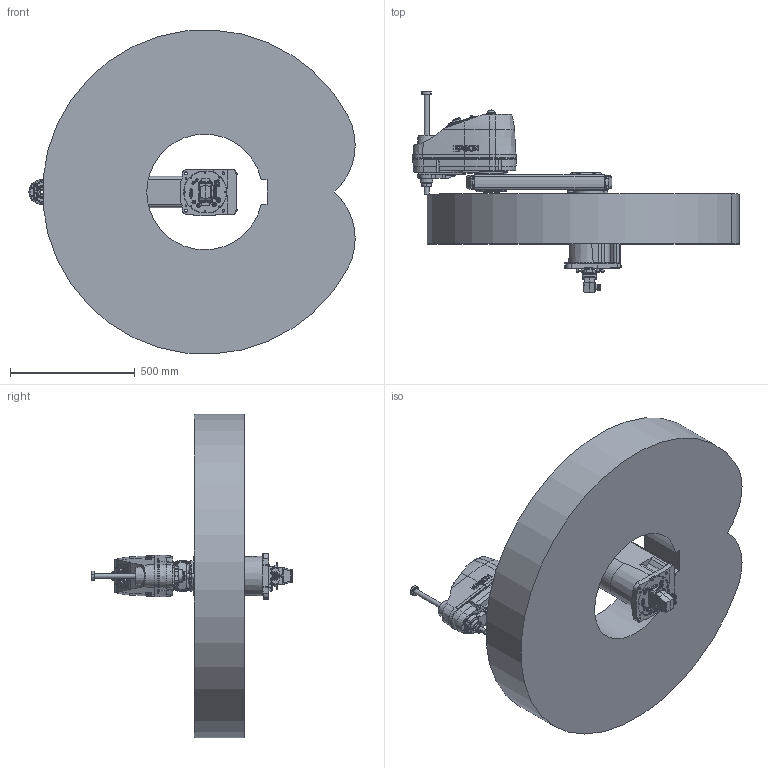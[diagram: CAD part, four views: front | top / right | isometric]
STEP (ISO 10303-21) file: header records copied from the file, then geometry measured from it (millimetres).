
FILE_DESCRIPTION( ( 'STEP AP214' ), '1' );
FILE_NAME( 'C:/Users/9607552/Desktop/GX8-B652SB_langle.stp', '2023-07-07T02:55:11', ( '' ), ( '' ), ' ', 'PARTsolutions', ' ' );
FILE_SCHEMA( ( 'AUTOMOTIVE_DESIGN { 1 0 10303 214 1 1 1 1 }' ) );
Length unit declared in the file: millimetre
Products named in the file (9): GX8-B652SB-AW; _B452SBbasegx8; _B652Sj1arm; _GX8-B652SBj1arm2; _GX8-B652SBj1arm1; _B452S_J2; _B452SZA; _Angle-B; _GX8-25-B_WS
Assembly tree (10 placements, depth 2):
  GX8-B652SB-AW
    _B452SBbasegx8
    _B652Sj1arm
    _GX8-B652SBj1arm2  x2
    _GX8-B652SBj1arm1  x2
    _B452S_J2
    _B452SZA
    _Angle-B
    _GX8-25-B_WS
Bounding box: 1308.1 x 803.1 x 1298.02 mm (x, y, z)
Volume: 249465479.1 mm3; surface area: 4515423.2 mm2
Topology: 10 solids, 11 shells, 2923 faces, 7185 edges, 4700 vertices
Faces by surface type: plane 1472, cylinder 936, cone 354, torus 118, bspline 37, sphere 6
Full cylindrical faces by diameter (mm): 1 x48, 1.18 x55, 2.459 x12, 3 x32, 3.242 x20, 3.3 x5, 3.9 x4, 4 x4, 4.2 x6, 4.5 x4, 4.8 x5, 4.917 x2, 5.34 x4, 5.5 x17, 6 x1, 6.2 x2, 6.647 x4, 6.8 x2, 7 x48, 8 x5, 8.5 x6, 9 x24, 10 x18, 11 x4, 11.2 x7, 11.5 x1, 12 x5, 12.25 x1, 13 x3, 13.2 x12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
Entity records: 104780 total; most frequent: CARTESIAN_POINT 20200, DIRECTION 12839, ORIENTED_EDGE 11952, EDGE_CURVE 5976, AXIS2_PLACEMENT_3D 4945, VERTEX_POINT 4303, EDGE_LOOP 3852, FACE_OUTER_BOUND 3213
